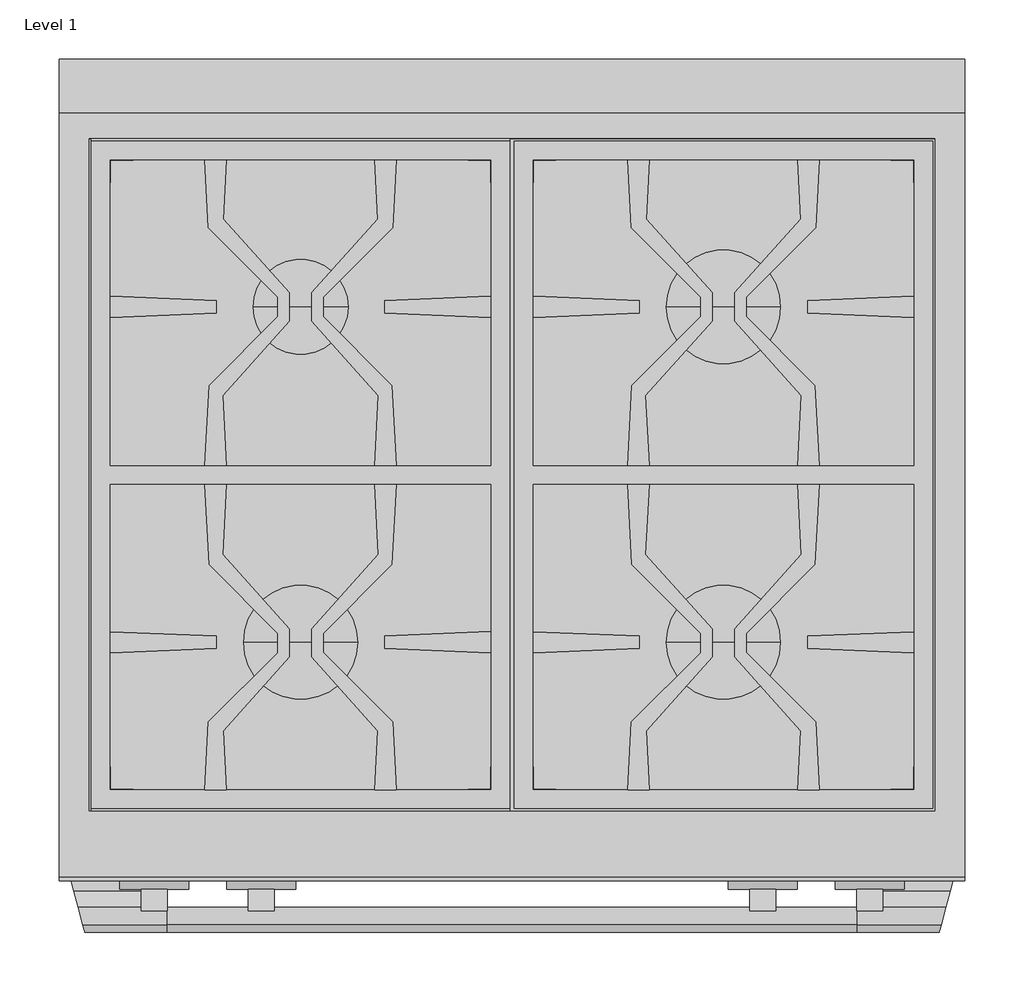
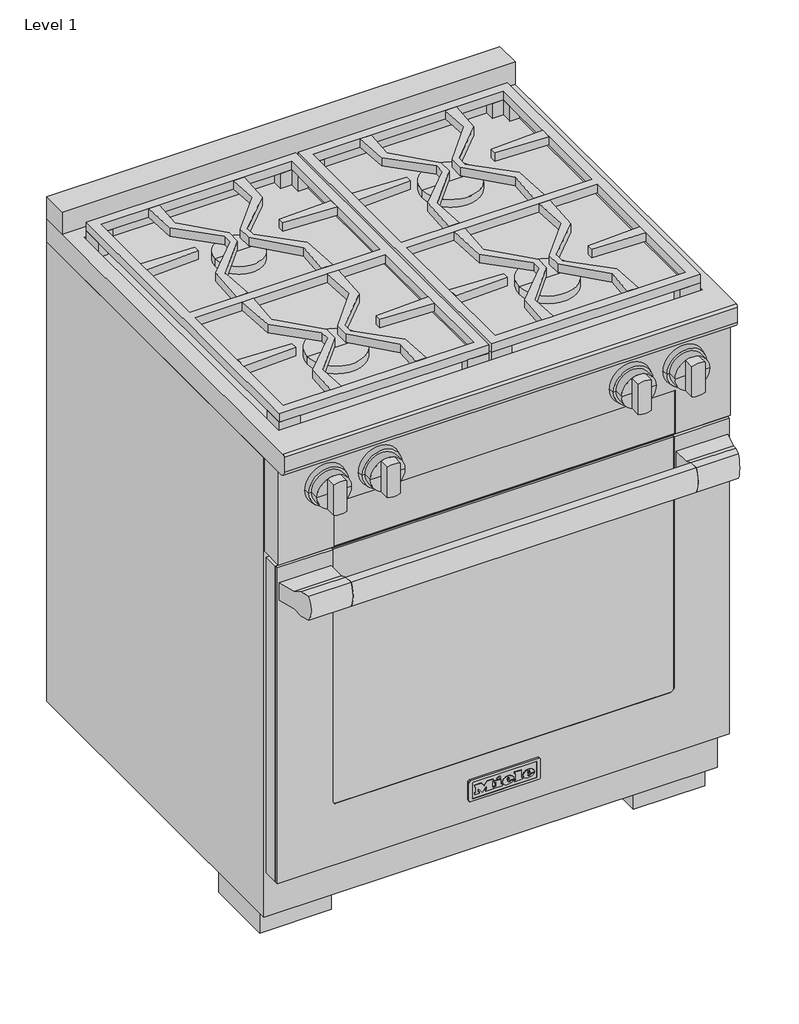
# One storey: 1 proxy.
"""IFC4 building model written with IfcOpenShell, lengths in millimetres."""

from ifc_helpers import new_model, si_unit, origin, place, context, project, spatial, transform, mapped, element, save
from components import specialty_equipment_f78d7c6f, specialty_equipment_ef82b3eb

model = new_model("IFC4")

# Units and contexts
model_context = context("Model", 3, world=origin())
ifc_project = project(units=[si_unit("LENGTHUNIT", "METRE", prefix="MILLI")], contexts=[model_context])

# Site, building, storey
site = spatial("IfcSite", under=ifc_project)
building = spatial("IfcBuilding", under=site)
storey = spatial("IfcBuildingStorey", under=building, Name="Level 1", Elevation=0.0)

# Proxy
placement = place(None, origin())
specialty_equipment_shape = specialty_equipment_f78d7c6f(model_context)
specialty_equipment_2_shape = specialty_equipment_ef82b3eb(model_context)
element("IfcBuildingElementProxy", 1, Name="10902360_USA_HR1924-2G_EDST-CLST : 25192471_USA_10902360_HR1924-2G_EDST-CLST", ObjectType="10902360_USA_HR1924-2G_EDST-CLST : 25192471_USA_10902360_HR1924-2G_EDST-CLST", at=placement, inside=storey, context=model_context, shape_type="MappedRepresentation", body=[
    mapped(specialty_equipment_shape, transform((0.0, 0.0, 0.0), x_axis=(1.0, 0.0, 0.0), y_axis=(0.0, 1.0, 0.0), z_axis=(0.0, 0.0, 1.0))),
    mapped(specialty_equipment_2_shape, transform((0.0, 0.0, 0.0), x_axis=(1.0, 0.0, 0.0), y_axis=(0.0, 1.0, 0.0), z_axis=(0.0, 0.0, 1.0))),
])

save(model, "model.ifc")
